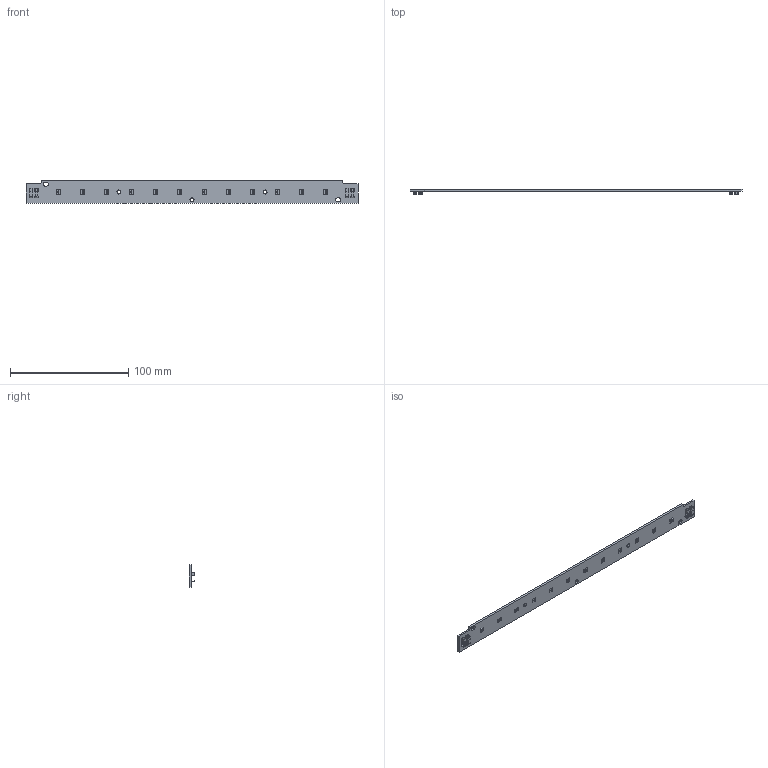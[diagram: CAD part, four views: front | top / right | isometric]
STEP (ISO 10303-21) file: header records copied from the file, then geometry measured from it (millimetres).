
FILE_DESCRIPTION(/* description */ ('Unknown'),/* implementation_level */ '2;1');
FILE_NAME(/* name */ 'LinLED 281x20mm 425mW UVC 265nm 1x12 80V G1 sh-000 2021-10-19',/* time_stamp */ '2021-10-27T12:18:45+02:00',/* author */ ('Unknown'),/* organization */ ('Unknown'),/* preprocessor_version */ 'ST-DEVELOPER v16.7',/* originating_system */ 'Solid Edge',/* authorisation */ 'Unknown');
FILE_SCHEMA (('AUTOMOTIVE_DESIGN {1 0 10303 214 3 1 1}'));
Length unit declared in the file: millimetre
Products named in the file (1): LinLED 281x20mm 425mW UVC 265nm 1x12 80V G1 sh-000 2021-10-19
Bounding box: 281 x 4.6 x 19.2 mm (x, y, z)
Volume: 8586.4 mm3; surface area: 12023.3 mm2
Topology: 1 solids, 1 shells, 671 faces, 1883 edges, 1250 vertices
Faces by surface type: plane 626, cylinder 45
Full cylindrical faces by diameter (mm): 2.5 x4, 3.4 x3
Entity records: 25851 total; most frequent: CARTESIAN_POINT 3778, ORIENTED_EDGE 3728, DIRECTION 3298, EDGE_CURVE 1864, LINE 1774, VECTOR 1774, VERTEX_POINT 1242, AXIS2_PLACEMENT_3D 762
